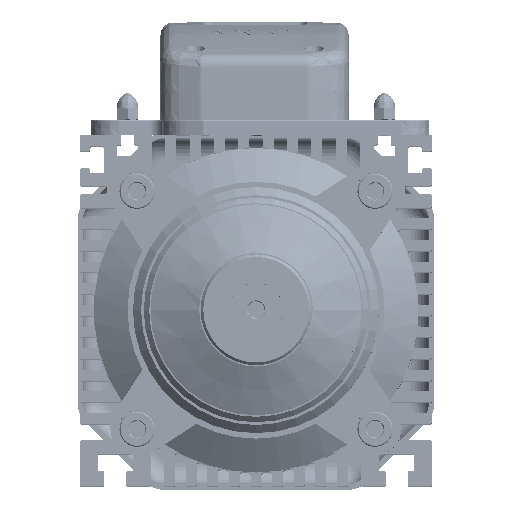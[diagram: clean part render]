
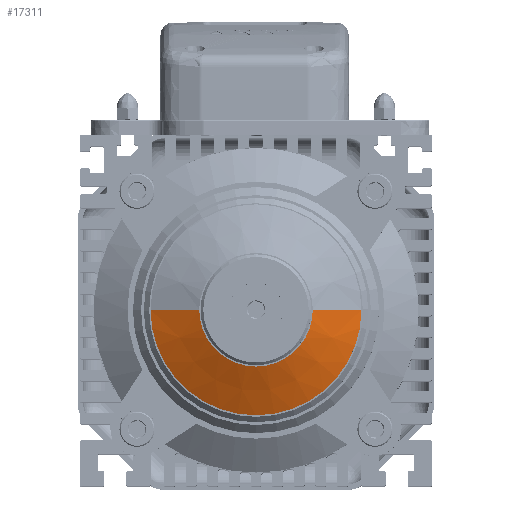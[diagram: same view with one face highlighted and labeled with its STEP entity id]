
A CAD part, top view. The second image highlights one B-rep face of the part: STEP entity #17311.
In plain terms, the highlighted conical face has half-angle 66.038 degrees and reference radius 39 mm.
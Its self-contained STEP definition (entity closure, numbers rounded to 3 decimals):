
#1627 = AXIS2_PLACEMENT_3D ( 'NONE', #10834, #75677, #64391 ) ;
#3546 = EDGE_LOOP ( 'NONE', ( #61009, #22150, #12068, #105185 ) ) ;
#10557 = CARTESIAN_POINT ( 'NONE',  ( -21., 0., 13.5 ) ) ;
#10834 = CARTESIAN_POINT ( 'NONE',  ( 0., 0., 5.5 ) ) ;
#11053 = LINE ( 'NONE', #109669, #18090 ) ;
#11079 = CARTESIAN_POINT ( 'NONE',  ( 0., 0., 5.5 ) ) ;
#12068 = ORIENTED_EDGE ( 'NONE', *, *, #106308, .T. ) ;
#17311 = ADVANCED_FACE ( 'NONE', ( #27640 ), #71212, .T. ) ;
#18090 = VECTOR ( 'NONE', #98340, 1000. ) ;
#22150 = ORIENTED_EDGE ( 'NONE', *, *, #70085, .F. ) ;
#23743 = DIRECTION ( 'NONE',  ( -0.914, 0., -0.406 ) ) ;
#27640 = FACE_OUTER_BOUND ( 'NONE', #3546, .T. ) ;
#33510 = VERTEX_POINT ( 'NONE', #33630 ) ;
#33630 = CARTESIAN_POINT ( 'NONE',  ( 21., 0., 13.5 ) ) ;
#34995 = CARTESIAN_POINT ( 'NONE',  ( -39., 0., 5.5 ) ) ;
#37673 = CARTESIAN_POINT ( 'NONE',  ( -39., 0., 5.5 ) ) ;
#41093 = EDGE_CURVE ( 'NONE', #67591, #43684, #100777, .T. ) ;
#43684 = VERTEX_POINT ( 'NONE', #69271 ) ;
#45765 = VECTOR ( 'NONE', #23743, 1000. ) ;
#46206 = LINE ( 'NONE', #34995, #45765 ) ;
#61009 = ORIENTED_EDGE ( 'NONE', *, *, #81797, .F. ) ;
#64391 = DIRECTION ( 'NONE',  ( 1., 0., 0. ) ) ;
#64535 = AXIS2_PLACEMENT_3D ( 'NONE', #11079, #109697, #98368 ) ;
#67591 = VERTEX_POINT ( 'NONE', #37673 ) ;
#69271 = CARTESIAN_POINT ( 'NONE',  ( 39., 0., 5.5 ) ) ;
#70085 = EDGE_CURVE ( 'NONE', #92318, #33510, #79073, .T. ) ;
#71212 = CONICAL_SURFACE ( 'NONE', #64535, 39., 1.153 ) ;
#75677 = DIRECTION ( 'NONE',  ( 0., 0., 1. ) ) ;
#79073 = CIRCLE ( 'NONE', #85207, 21. ) ;
#81797 = EDGE_CURVE ( 'NONE', #33510, #43684, #11053, .T. ) ;
#83239 = DIRECTION ( 'NONE',  ( 1., 0., 0. ) ) ;
#85207 = AXIS2_PLACEMENT_3D ( 'NONE', #105761, #94478, #83239 ) ;
#92318 = VERTEX_POINT ( 'NONE', #10557 ) ;
#94478 = DIRECTION ( 'NONE',  ( 0., 0., 1. ) ) ;
#98340 = DIRECTION ( 'NONE',  ( 0.914, 0., -0.406 ) ) ;
#98368 = DIRECTION ( 'NONE',  ( -1., 0., 0. ) ) ;
#100777 = CIRCLE ( 'NONE', #1627, 39. ) ;
#105185 = ORIENTED_EDGE ( 'NONE', *, *, #41093, .T. ) ;
#105761 = CARTESIAN_POINT ( 'NONE',  ( 0., 0., 13.5 ) ) ;
#106308 = EDGE_CURVE ( 'NONE', #92318, #67591, #46206, .T. ) ;
#109669 = CARTESIAN_POINT ( 'NONE',  ( 39., 0., 5.5 ) ) ;
#109697 = DIRECTION ( 'NONE',  ( 0., 0., -1. ) ) ;
